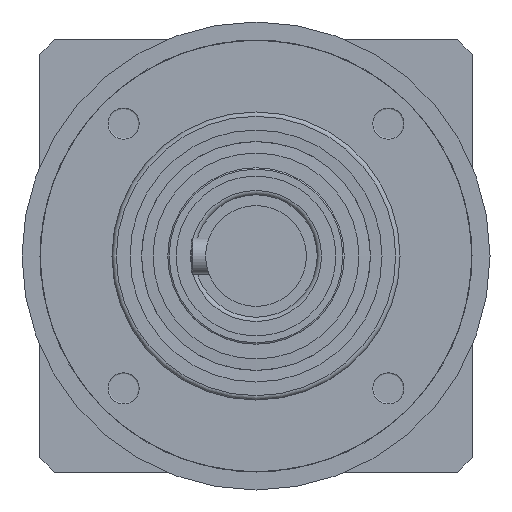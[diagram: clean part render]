
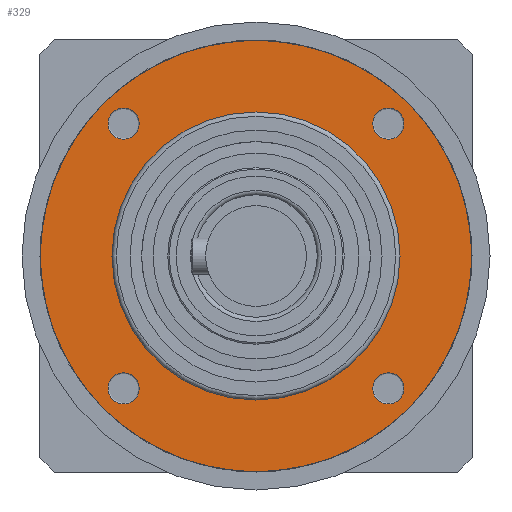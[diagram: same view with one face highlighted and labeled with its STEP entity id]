
A CAD part, left-side view. The second image highlights one B-rep face of the part: STEP entity #329.
In plain terms, the highlighted planar face has unit normal (-1, 0, 0).
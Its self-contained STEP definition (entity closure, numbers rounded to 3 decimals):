
#329=ADVANCED_FACE('',(#595,#596,#597,#598,#512),#464,.T.);
#464=PLANE('',#1805);
#512=FACE_OUTER_BOUND('',#762,.T.);
#595=FACE_BOUND('',#758,.T.);
#596=FACE_BOUND('',#759,.T.);
#597=FACE_BOUND('',#760,.T.);
#598=FACE_BOUND('',#761,.T.);
#758=EDGE_LOOP('',(#992));
#759=EDGE_LOOP('',(#993));
#760=EDGE_LOOP('',(#994));
#761=EDGE_LOOP('',(#995));
#762=EDGE_LOOP('',(#996));
#992=ORIENTED_EDGE('',*,*,#1504,.T.);
#993=ORIENTED_EDGE('',*,*,#1505,.T.);
#994=ORIENTED_EDGE('',*,*,#1506,.T.);
#995=ORIENTED_EDGE('',*,*,#1507,.T.);
#996=ORIENTED_EDGE('',*,*,#1508,.T.);
#1344=VERTEX_POINT('',#2620);
#1345=VERTEX_POINT('',#2622);
#1346=VERTEX_POINT('',#2624);
#1347=VERTEX_POINT('',#2626);
#1348=VERTEX_POINT('',#2628);
#1504=EDGE_CURVE('',#1344,#1344,#1680,.T.);
#1505=EDGE_CURVE('',#1345,#1345,#1681,.T.);
#1506=EDGE_CURVE('',#1346,#1346,#1682,.T.);
#1507=EDGE_CURVE('',#1347,#1347,#1683,.T.);
#1508=EDGE_CURVE('',#1348,#1348,#1684,.T.);
#1680=CIRCLE('',#1800,2.175);
#1681=CIRCLE('',#1801,2.175);
#1682=CIRCLE('',#1802,2.175);
#1683=CIRCLE('',#1803,2.175);
#1684=CIRCLE('',#1804,30.);
#1800=AXIS2_PLACEMENT_3D('',#2619,#2056,#2057);
#1801=AXIS2_PLACEMENT_3D('',#2621,#2058,#2059);
#1802=AXIS2_PLACEMENT_3D('',#2623,#2060,#2061);
#1803=AXIS2_PLACEMENT_3D('',#2625,#2062,#2063);
#1804=AXIS2_PLACEMENT_3D('',#2627,#2064,#2065);
#1805=AXIS2_PLACEMENT_3D('',#2629,#2066,#2067);
#2056=DIRECTION('',(1.,0.,0.));
#2057=DIRECTION('',(0.,-0.707,0.707));
#2058=DIRECTION('',(1.,0.,0.));
#2059=DIRECTION('',(0.,-0.707,-0.707));
#2060=DIRECTION('',(1.,0.,0.));
#2061=DIRECTION('',(0.,0.707,-0.707));
#2062=DIRECTION('',(1.,0.,0.));
#2063=DIRECTION('',(0.,0.707,0.707));
#2064=DIRECTION('',(-1.,0.,0.));
#2065=DIRECTION('',(0.,0.707,0.707));
#2066=DIRECTION('',(-1.,0.,0.));
#2067=DIRECTION('',(0.,0.707,0.707));
#2619=CARTESIAN_POINT('',(-57.55,18.385,18.385));
#2620=CARTESIAN_POINT('',(-57.55,16.847,19.923));
#2621=CARTESIAN_POINT('',(-57.55,-18.385,18.385));
#2622=CARTESIAN_POINT('',(-57.55,-19.923,16.847));
#2623=CARTESIAN_POINT('',(-57.55,-18.385,-18.385));
#2624=CARTESIAN_POINT('',(-57.55,-16.847,-19.923));
#2625=CARTESIAN_POINT('',(-57.55,18.385,-18.385));
#2626=CARTESIAN_POINT('',(-57.55,19.923,-16.847));
#2627=CARTESIAN_POINT('',(-57.55,0.,0.));
#2628=CARTESIAN_POINT('',(-57.55,21.213,21.213));
#2629=CARTESIAN_POINT('',(-57.55,0.,0.));
